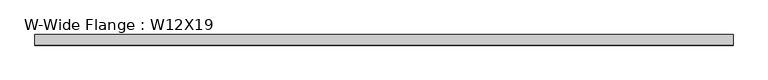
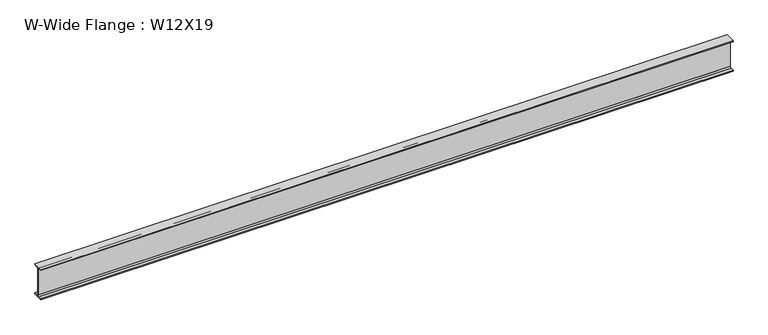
"""IFC4 building model written with IfcOpenShell, lengths in millimetres: beam geometry, W-Wide Flange : W12X19."""

from ifc_helpers import new_model, si_unit, point, frame, frame_2d, origin, place, context, project, spatial, polyline, circle_curve, trimmed, segment, composite_curve, outline, extrude, source, transform, mapped, element, save


def w_wide_flange_w12x19_e948c663(model_context):
    return source(origin(), model_context, "Body", "SweptSolid", [
        extrude(outline(composite_curve([segment(polyline([(50.927, -146.05), (50.927, -154.94), (-50.927, -154.94), (-50.927, -146.05), (-16.3195, -146.05)]), True, "CONTINUOUS"), segment(trimmed(circle_curve(frame_2d((-16.3195, -132.715)), 13.335), [point((-16.3195, -146.05))], [point((-2.9845, -132.715))], True, "CARTESIAN"), True, "CONTINUOUS"), segment(polyline([(-2.9845, -132.715), (-2.9845, 132.715)]), True, "CONTINUOUS"), segment(trimmed(circle_curve(frame_2d((-16.3195, 132.715)), 13.335), [point((-2.9845, 132.715))], [point((-16.3195, 146.05))], True, "CARTESIAN"), True, "CONTINUOUS"), segment(polyline([(-16.3195, 146.05), (-50.927, 146.05), (-50.927, 154.94), (50.927, 154.94), (50.927, 146.05), (16.3195, 146.05)]), True, "CONTINUOUS"), segment(trimmed(circle_curve(frame_2d((16.3195, 132.715)), 13.335), [point((16.3195, 146.05))], [point((2.9845, 132.715))], True, "CARTESIAN"), True, "CONTINUOUS"), segment(polyline([(2.9845, 132.715), (2.9845, -132.715)]), True, "CONTINUOUS"), segment(trimmed(circle_curve(frame_2d((16.3195, -132.715)), 13.335), [point((2.9845, -132.715))], [point((16.3195, -146.05))], True, "CARTESIAN"), True, "CONTINUOUS"), segment(polyline([(16.3195, -146.05), (50.927, -146.05)]), True, "CONTINUOUS")], self_intersect=False)), frame((-2895.0494046, 0.0, 0.0), z_axis=(1.0, 0.0, 0.0), x_axis=(0.0, 1.0, 0.0)), (0.0, 0.0, 1.0), 6714.9884931),
    ])


if __name__ == "__main__":
    model = new_model("IFC4")
    model_context = context("Model", 3, world=origin())
    ifc_project = project(units=[si_unit("LENGTHUNIT", "METRE", prefix="MILLI")], contexts=[model_context])
    site = spatial("IfcSite", under=ifc_project)
    building = spatial("IfcBuilding", under=site)
    placement = place(None, origin())
    w_wide_flange_w12x19_shape = w_wide_flange_w12x19_e948c663(model_context)
    element("IfcBeam", 1, ObjectType="W-Wide Flange : W12X19", at=placement, inside=building, context=model_context, shape_type="MappedRepresentation", body=[
        mapped(w_wide_flange_w12x19_shape, transform((0.0, 0.0, 0.0), x_axis=(1.0, 0.0, 0.0), y_axis=(0.0, 1.0, 0.0), z_axis=(0.0, 0.0, 1.0))),
    ])
    save(model, "model.ifc")
